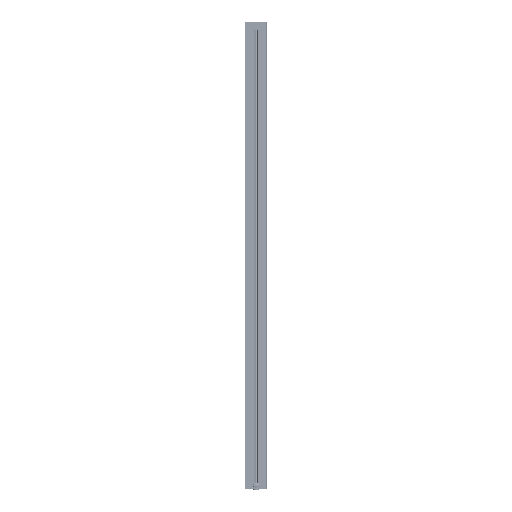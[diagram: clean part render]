
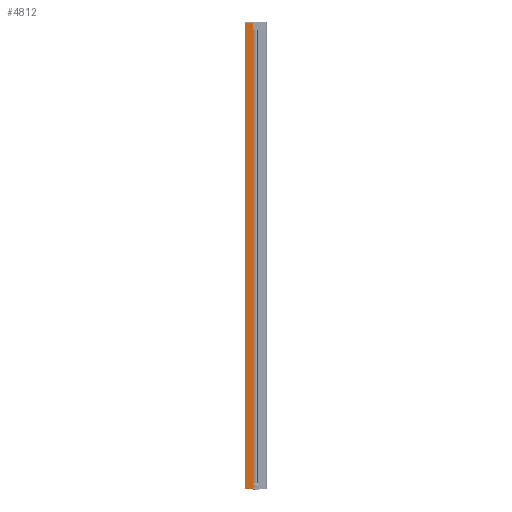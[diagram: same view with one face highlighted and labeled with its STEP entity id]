
A CAD part, left-side view. The second image highlights one B-rep face of the part: STEP entity #4812.
In plain terms, the highlighted planar face has unit normal (-1, 0, 0).
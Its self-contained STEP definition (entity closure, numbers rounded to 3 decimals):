
#15 = VECTOR ( 'NONE', #31302, 1000. ) ;
#134 = VERTEX_POINT ( 'NONE', #30267 ) ;
#1320 = EDGE_CURVE ( 'NONE', #134, #14398, #30299, .T. ) ;
#1497 = DIRECTION ( 'NONE',  ( 0., 0., -1. ) ) ;
#1811 = LINE ( 'NONE', #21370, #9624 ) ;
#2195 = LINE ( 'NONE', #13031, #20752 ) ;
#2567 = ORIENTED_EDGE ( 'NONE', *, *, #5305, .T. ) ;
#4812 = ADVANCED_FACE ( 'NONE', ( #29683 ), #16139, .F. ) ;
#4851 = LINE ( 'NONE', #33010, #19770 ) ;
#5239 = CARTESIAN_POINT ( 'NONE',  ( -16., 13.85, -1016.9 ) ) ;
#5284 = CARTESIAN_POINT ( 'NONE',  ( -16., 8.487, 1017. ) ) ;
#5305 = EDGE_CURVE ( 'NONE', #14398, #20689, #20127, .T. ) ;
#5704 = CARTESIAN_POINT ( 'NONE',  ( -16., 8.776, 987.3 ) ) ;
#6480 = EDGE_CURVE ( 'NONE', #7362, #13730, #7921, .T. ) ;
#7242 = DIRECTION ( 'NONE',  ( 0., 0., 1. ) ) ;
#7362 = VERTEX_POINT ( 'NONE', #30822 ) ;
#7680 = CARTESIAN_POINT ( 'NONE',  ( -16., 46.5, 1017. ) ) ;
#7759 = EDGE_LOOP ( 'NONE', ( #17128, #12526, #2567, #16993, #8910, #29865, #11496, #16490 ) ) ;
#7921 = LINE ( 'NONE', #30964, #30957 ) ;
#8910 = ORIENTED_EDGE ( 'NONE', *, *, #6480, .F. ) ;
#9624 = VECTOR ( 'NONE', #20840, 1000. ) ;
#10529 = VECTOR ( 'NONE', #33623, 1000. ) ;
#10934 = DIRECTION ( 'NONE',  ( 0., -1., 0. ) ) ;
#11496 = ORIENTED_EDGE ( 'NONE', *, *, #28851, .T. ) ;
#12128 = CARTESIAN_POINT ( 'NONE',  ( -16., 8.776, 1017. ) ) ;
#12526 = ORIENTED_EDGE ( 'NONE', *, *, #1320, .T. ) ;
#12631 = CARTESIAN_POINT ( 'NONE',  ( -16., 13.85, 987.3 ) ) ;
#13031 = CARTESIAN_POINT ( 'NONE',  ( -16., 46.5, 1017. ) ) ;
#13730 = VERTEX_POINT ( 'NONE', #12631 ) ;
#14398 = VERTEX_POINT ( 'NONE', #19828 ) ;
#15654 = LINE ( 'NONE', #24248, #35318 ) ;
#16139 = PLANE ( 'NONE',  #21606 ) ;
#16490 = ORIENTED_EDGE ( 'NONE', *, *, #28273, .T. ) ;
#16576 = CARTESIAN_POINT ( 'NONE',  ( -16., 13.85, -987.3 ) ) ;
#16688 = DIRECTION ( 'NONE',  ( 0., 0., -1. ) ) ;
#16993 = ORIENTED_EDGE ( 'NONE', *, *, #31449, .F. ) ;
#17128 = ORIENTED_EDGE ( 'NONE', *, *, #25733, .T. ) ;
#18872 = DIRECTION ( 'NONE',  ( 0., 1., 0. ) ) ;
#19091 = VECTOR ( 'NONE', #10934, 1000. ) ;
#19436 = VERTEX_POINT ( 'NONE', #7680 ) ;
#19770 = VECTOR ( 'NONE', #24607, 1000. ) ;
#19828 = CARTESIAN_POINT ( 'NONE',  ( -16., 8.776, -987.3 ) ) ;
#20127 = LINE ( 'NONE', #12128, #15 ) ;
#20689 = VERTEX_POINT ( 'NONE', #5704 ) ;
#20752 = VECTOR ( 'NONE', #1497, 1000. ) ;
#20840 = DIRECTION ( 'NONE',  ( 0., -1., 0. ) ) ;
#21370 = CARTESIAN_POINT ( 'NONE',  ( -16., 8.487, -1016.9 ) ) ;
#21606 = AXIS2_PLACEMENT_3D ( 'NONE', #34988, #32080, #18872 ) ;
#24248 = CARTESIAN_POINT ( 'NONE',  ( -16., 13.85, -1017. ) ) ;
#24607 = DIRECTION ( 'NONE',  ( 0., -1., 0. ) ) ;
#24718 = VERTEX_POINT ( 'NONE', #5239 ) ;
#25395 = LINE ( 'NONE', #5284, #10529 ) ;
#25733 = EDGE_CURVE ( 'NONE', #24718, #134, #15654, .T. ) ;
#28273 = EDGE_CURVE ( 'NONE', #31611, #24718, #1811, .T. ) ;
#28851 = EDGE_CURVE ( 'NONE', #19436, #31611, #2195, .T. ) ;
#29683 = FACE_OUTER_BOUND ( 'NONE', #7759, .T. ) ;
#29865 = ORIENTED_EDGE ( 'NONE', *, *, #34907, .F. ) ;
#30267 = CARTESIAN_POINT ( 'NONE',  ( -16., 13.85, -987.3 ) ) ;
#30299 = LINE ( 'NONE', #16576, #19091 ) ;
#30822 = CARTESIAN_POINT ( 'NONE',  ( -16., 13.85, 1017. ) ) ;
#30957 = VECTOR ( 'NONE', #16688, 1000. ) ;
#30964 = CARTESIAN_POINT ( 'NONE',  ( -16., 13.85, 1017. ) ) ;
#31302 = DIRECTION ( 'NONE',  ( 0., 0., 1. ) ) ;
#31449 = EDGE_CURVE ( 'NONE', #13730, #20689, #4851, .T. ) ;
#31611 = VERTEX_POINT ( 'NONE', #34364 ) ;
#32080 = DIRECTION ( 'NONE',  ( 1., 0., 0. ) ) ;
#33010 = CARTESIAN_POINT ( 'NONE',  ( -16., 13.85, 987.3 ) ) ;
#33623 = DIRECTION ( 'NONE',  ( 0., -1., 0. ) ) ;
#34364 = CARTESIAN_POINT ( 'NONE',  ( -16., 46.5, -1016.9 ) ) ;
#34907 = EDGE_CURVE ( 'NONE', #19436, #7362, #25395, .T. ) ;
#34988 = CARTESIAN_POINT ( 'NONE',  ( -16., 8.487, 1017. ) ) ;
#35318 = VECTOR ( 'NONE', #7242, 1000. ) ;
